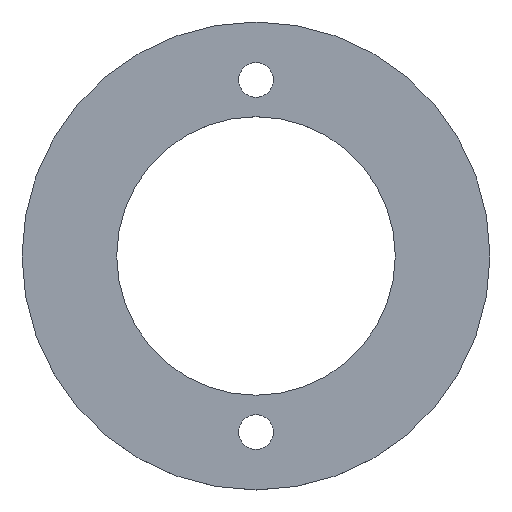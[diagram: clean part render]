
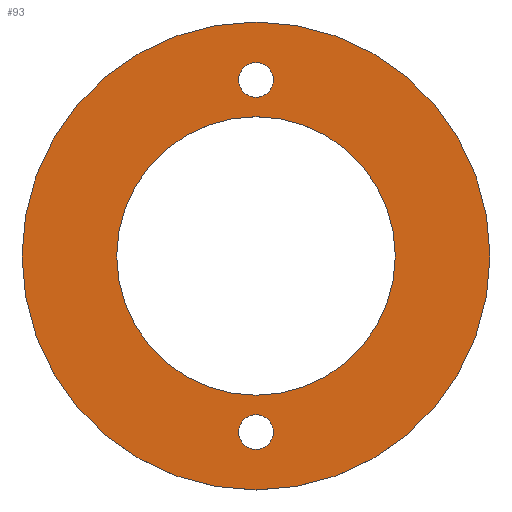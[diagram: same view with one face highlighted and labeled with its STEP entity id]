
A CAD part, top view. The second image highlights one B-rep face of the part: STEP entity #93.
In plain terms, the highlighted planar face has unit normal (0, 0, 1).
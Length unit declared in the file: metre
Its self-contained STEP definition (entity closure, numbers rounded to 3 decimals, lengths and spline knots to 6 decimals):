
#15=PLANE('',#118);
#24=ORIENTED_EDGE('',*,*,#38,.F.);
#25=ORIENTED_EDGE('',*,*,#39,.F.);
#26=ORIENTED_EDGE('',*,*,#33,.T.);
#27=ORIENTED_EDGE('',*,*,#35,.F.);
#33=EDGE_CURVE('',#41,#41,#49,.T.);
#35=EDGE_CURVE('',#43,#43,#51,.T.);
#38=EDGE_CURVE('',#46,#46,#54,.F.);
#39=EDGE_CURVE('',#47,#47,#55,.F.);
#41=VERTEX_POINT('',#158);
#43=VERTEX_POINT('',#163);
#46=VERTEX_POINT('',#171);
#47=VERTEX_POINT('',#173);
#49=CIRCLE('',#111,0.014288);
#51=CIRCLE('',#114,0.024003);
#54=CIRCLE('',#119,0.001773);
#55=CIRCLE('',#120,0.001773);
#64=EDGE_LOOP('',(#24));
#65=EDGE_LOOP('',(#25));
#66=EDGE_LOOP('',(#26));
#67=EDGE_LOOP('',(#27));
#80=FACE_BOUND('',#64,.T.);
#81=FACE_BOUND('',#65,.T.);
#82=FACE_BOUND('',#66,.T.);
#83=FACE_BOUND('',#67,.T.);
#93=ADVANCED_FACE('',(#80,#81,#82,#83),#15,.F.);
#111=AXIS2_PLACEMENT_3D('',#157,#129,#130);
#114=AXIS2_PLACEMENT_3D('',#162,#135,#136);
#118=AXIS2_PLACEMENT_3D('',#169,#143,#144);
#119=AXIS2_PLACEMENT_3D('',#170,#145,#146);
#120=AXIS2_PLACEMENT_3D('',#172,#147,#148);
#129=DIRECTION('',(0.,0.,-1.));
#130=DIRECTION('',(-1.,0.,0.));
#135=DIRECTION('',(0.,0.,-1.));
#136=DIRECTION('',(-1.,0.,0.));
#143=DIRECTION('',(0.,0.,-1.));
#144=DIRECTION('',(1.,0.,0.));
#145=DIRECTION('',(0.,0.,-1.));
#146=DIRECTION('',(-1.,0.,0.));
#147=DIRECTION('',(0.,0.,-1.));
#148=DIRECTION('',(-1.,0.,0.));
#157=CARTESIAN_POINT('',(0.,0.,0.037925));
#158=CARTESIAN_POINT('',(-0.014288,0.,0.037925));
#162=CARTESIAN_POINT('',(0.,0.,0.037925));
#163=CARTESIAN_POINT('',(-0.024003,0.,0.037925));
#169=CARTESIAN_POINT('',(0.,0.,0.037925));
#170=CARTESIAN_POINT('',(0.,-0.01806,0.037925));
#171=CARTESIAN_POINT('',(-0.001773,-0.01806,0.037925));
#172=CARTESIAN_POINT('',(0.,0.01806,0.037925));
#173=CARTESIAN_POINT('',(-0.001773,0.01806,0.037925));
